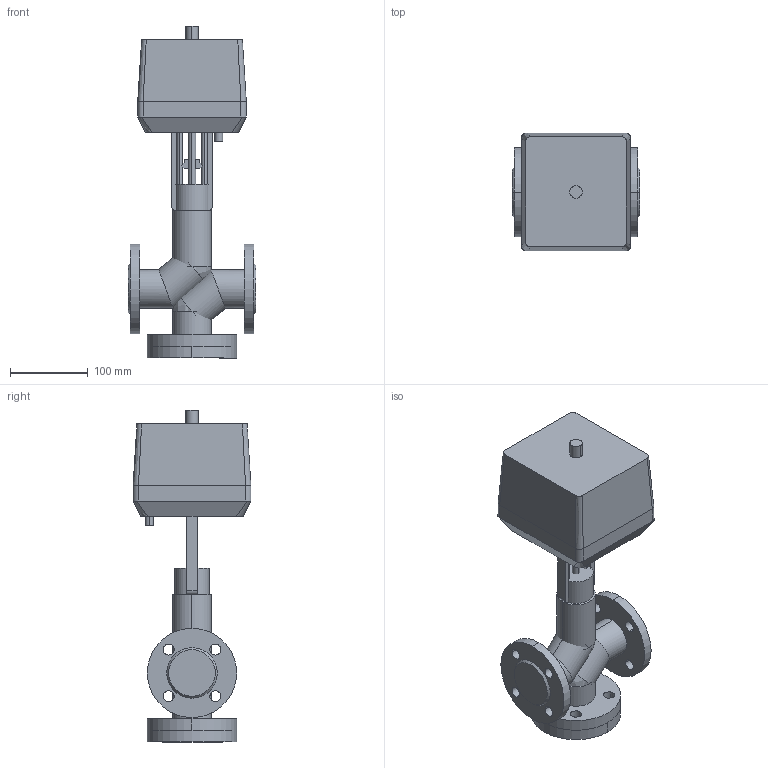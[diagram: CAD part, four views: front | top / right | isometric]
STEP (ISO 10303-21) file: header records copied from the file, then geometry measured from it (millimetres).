
FILE_DESCRIPTION(/* description */ (''),/* implementation_level */ '2;1');
FILE_NAME(/* name */ 'ТРК DN25 PN 2.5 МПа VTM-i 1000H',/* time_stamp */ '2026-07-14T23:22:37+03:00',/* author */ (''),/* organization */ (''),/* preprocessor_version */ 'ST-DEVELOPER v20',/* originating_system */ '',/* authorisation */ '');
FILE_SCHEMA (('AP242_MANAGED_MODEL_BASED_3D_ENGINEERING_MIM_LF { 1 0 10303 442 1 1 4 }'));
Length unit declared in the file: millimetre
Products named in the file (14): TopLevelAssembly; Выдавливание; Модификатор; Модификатор_1; Выдавливание_
1; Выдавливание_
2; Вращение; Выдавливание_
3; Выдавливание_
4; 1600; Переход; Объемная геометрия 
присоединена; Полый Выдавливание; Объемная геометрия 
присоединена_1
Assembly tree (13 placements, depth 2):
  TopLevelAssembly
    Выдавливание
    Модификатор
    Модификатор_1
    Выдавливание_
1
    Выдавливание_
2
    Вращение
    Выдавливание_
3
    Выдавливание_
4
    1600
    Переход
    Объемная геометрия 
присоединена
    Полый Выдавливание
    Объемная геометрия 
присоединена_1
Bounding box: 165 x 152 x 428 mm (x, y, z)
Volume: 3631774.5 mm3; surface area: 402265.2 mm2
Topology: 21 solids, 21 shells, 166 faces, 372 edges, 244 vertices
Faces by surface type: plane 78, cylinder 72, bspline 12, cone 4
Entity records: 5358 total; most frequent: CARTESIAN_POINT 1081, DIRECTION 906, ORIENTED_EDGE 728, EDGE_CURVE 364, AXIS2_PLACEMENT_3D 361, VERTEX_POINT 244, EDGE_LOOP 200, LINE 184
